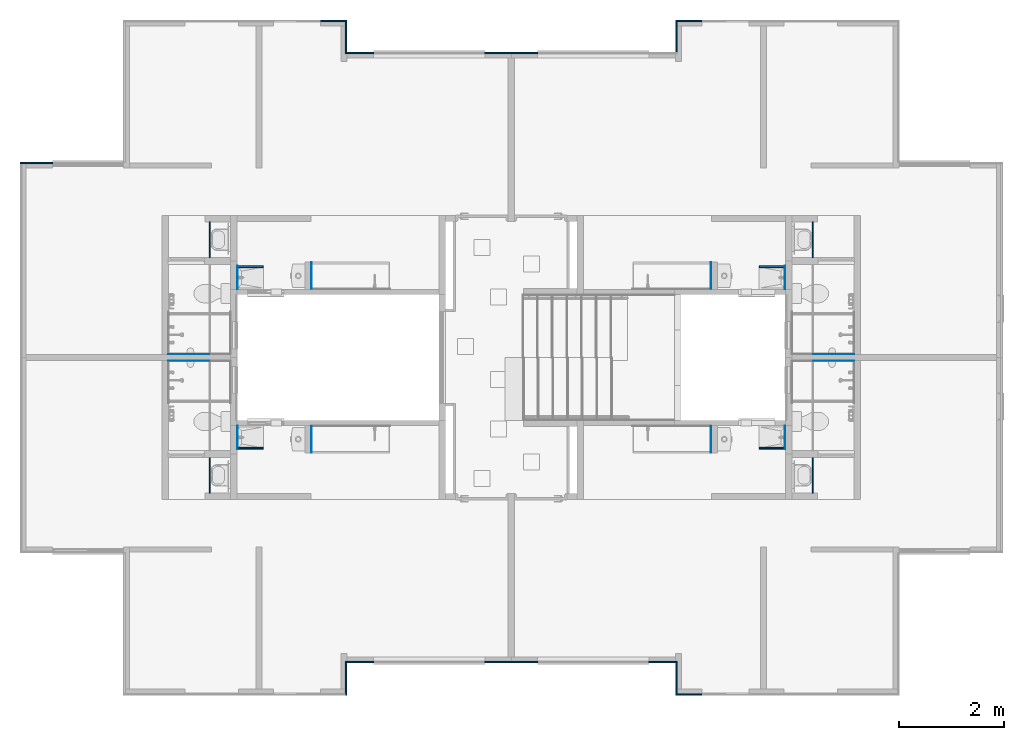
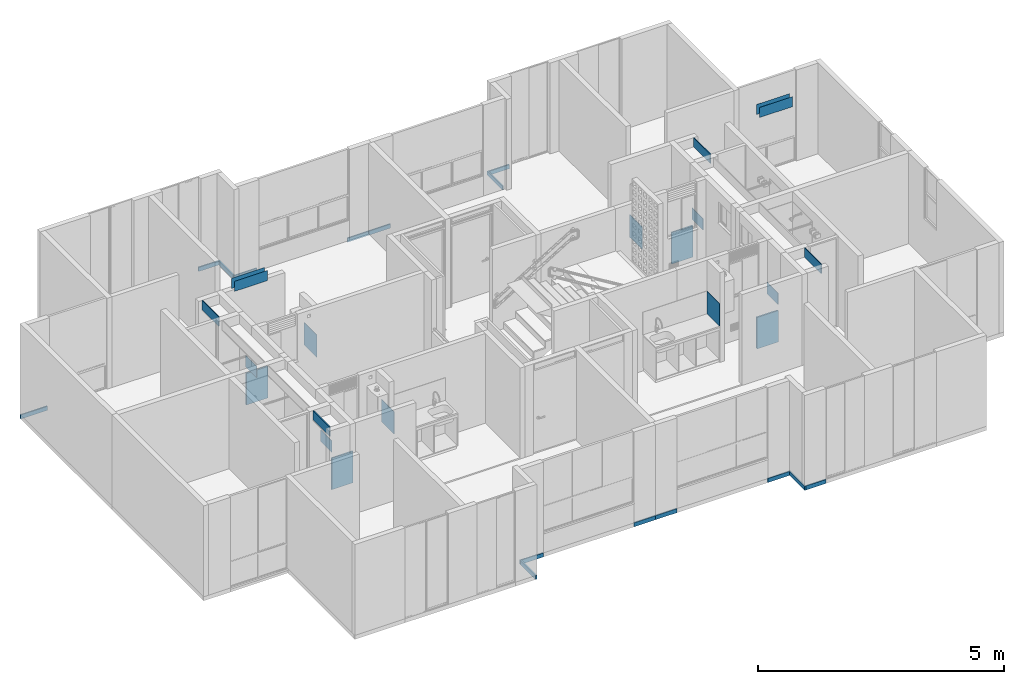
# One storey, part 27 of 48: 35 walls.
"""IFC4 building model written with IfcOpenShell, lengths in metres."""

from ifc_helpers import new_model, entity, si_unit, converted_unit, derived_unit, direction, frame, origin, place, context, subcontext, project, spatial, indexed_curve, outline, extrude, material, constituent, constituent_set, type_object, element, save


model = new_model("IFC4")

# Units and contexts
model_context = context("Model", 3, precision=1e-05, world=origin(), true_north=direction((6.123031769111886e-17, 1.0)))
body_context = subcontext(model_context, "Body", "Model", "MODEL_VIEW")
ifc_project = project(units=[si_unit("LENGTHUNIT", "METRE"), si_unit("AREAUNIT", "SQUARE_METRE"), si_unit("VOLUMEUNIT", "CUBIC_METRE"), converted_unit("PLANEANGLEUNIT", "DEGREE", entity("IfcRatioMeasure", 0.017453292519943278), si_unit("PLANEANGLEUNIT", "RADIAN"), dimensions=[0, 0, 0, 0, 0, 0, 0]), si_unit("MASSUNIT", "GRAM", prefix="KILO"), derived_unit("MASSDENSITYUNIT", [(si_unit("MASSUNIT", "GRAM", prefix="KILO"), 1), (si_unit("LENGTHUNIT", "METRE"), -3)]), derived_unit("IONCONCENTRATIONUNIT", [(si_unit("MASSUNIT", "GRAM", prefix="KILO"), 1), (si_unit("LENGTHUNIT", "METRE"), -3)]), derived_unit("MOMENTOFINERTIAUNIT", [(si_unit("LENGTHUNIT", "METRE"), 4)]), si_unit("TIMEUNIT", "SECOND"), si_unit("FREQUENCYUNIT", "HERTZ"), si_unit("THERMODYNAMICTEMPERATUREUNIT", "DEGREE_CELSIUS"), derived_unit("THERMALTRANSMITTANCEUNIT", [(si_unit("MASSUNIT", "GRAM", prefix="KILO"), 1), (si_unit("THERMODYNAMICTEMPERATUREUNIT", "KELVIN"), -1), (si_unit("TIMEUNIT", "SECOND"), -3)]), derived_unit("THERMALCONDUCTANCEUNIT", [(si_unit("MASSUNIT", "GRAM", prefix="KILO"), 1), (si_unit("THERMODYNAMICTEMPERATUREUNIT", "KELVIN"), -1), (si_unit("TIMEUNIT", "SECOND"), -3), (si_unit("LENGTHUNIT", "METRE"), 1)]), derived_unit("VOLUMETRICFLOWRATEUNIT", [(si_unit("LENGTHUNIT", "METRE"), 3), (si_unit("TIMEUNIT", "SECOND"), -1)]), derived_unit("MASSFLOWRATEUNIT", [(si_unit("MASSUNIT", "GRAM", prefix="KILO"), 1), (si_unit("TIMEUNIT", "SECOND"), -1)]), derived_unit("ROTATIONALFREQUENCYUNIT", [(si_unit("TIMEUNIT", "SECOND"), -1)]), si_unit("ELECTRICCURRENTUNIT", "AMPERE"), si_unit("ELECTRICVOLTAGEUNIT", "VOLT"), si_unit("POWERUNIT", "WATT"), si_unit("FORCEUNIT", "NEWTON", prefix="KILO"), si_unit("ILLUMINANCEUNIT", "LUX"), si_unit("LUMINOUSFLUXUNIT", "LUMEN"), si_unit("LUMINOUSINTENSITYUNIT", "CANDELA"), derived_unit("USERDEFINED", [(si_unit("MASSUNIT", "GRAM", prefix="KILO"), -1), (si_unit("LENGTHUNIT", "METRE"), -2), (si_unit("TIMEUNIT", "SECOND"), 3), (si_unit("LUMINOUSFLUXUNIT", "LUMEN"), 1)]), derived_unit("USERDEFINED", [(si_unit("MASSUNIT", "GRAM", prefix="KILO"), 1), (si_unit("TIMEUNIT", "SECOND"), -3), (si_unit("LENGTHUNIT", "METRE"), 3), (si_unit("ELECTRICCURRENTUNIT", "AMPERE"), -2)]), derived_unit("SOUNDPOWERUNIT", [(si_unit("MASSUNIT", "GRAM", prefix="KILO"), 1), (si_unit("TIMEUNIT", "SECOND"), -3), (si_unit("LENGTHUNIT", "METRE"), 2)]), derived_unit("SOUNDPRESSUREUNIT", [(si_unit("MASSUNIT", "GRAM", prefix="KILO"), 1), (si_unit("LENGTHUNIT", "METRE"), -1), (si_unit("TIMEUNIT", "SECOND"), -2)]), derived_unit("LINEARVELOCITYUNIT", [(si_unit("LENGTHUNIT", "METRE"), 1), (si_unit("TIMEUNIT", "SECOND"), -1)]), si_unit("PRESSUREUNIT", "PASCAL"), derived_unit("USERDEFINED", [(si_unit("MASSUNIT", "GRAM", prefix="KILO"), 1), (si_unit("LENGTHUNIT", "METRE"), -2), (si_unit("TIMEUNIT", "SECOND"), -2)]), derived_unit("LINEARFORCEUNIT", [(si_unit("MASSUNIT", "GRAM", prefix="KILO"), 1), (si_unit("TIMEUNIT", "SECOND"), -2)]), derived_unit("PLANARFORCEUNIT", [(si_unit("MASSUNIT", "GRAM", prefix="KILO"), 1), (si_unit("LENGTHUNIT", "METRE"), -1), (si_unit("TIMEUNIT", "SECOND"), -2)]), derived_unit("SPECIFICHEATCAPACITYUNIT", [(si_unit("THERMODYNAMICTEMPERATUREUNIT", "KELVIN"), -1), (si_unit("LENGTHUNIT", "METRE"), 2), (si_unit("TIMEUNIT", "SECOND"), -2)]), derived_unit("HEATINGVALUEUNIT", [(si_unit("LENGTHUNIT", "METRE"), 2), (si_unit("TIMEUNIT", "SECOND"), -2)]), derived_unit("VAPORPERMEABILITYUNIT", [(si_unit("LENGTHUNIT", "METRE"), -1), (si_unit("TIMEUNIT", "SECOND"), 1)]), derived_unit("DYNAMICVISCOSITYUNIT", [(si_unit("MASSUNIT", "GRAM", prefix="KILO"), 1), (si_unit("TIMEUNIT", "SECOND"), -1), (si_unit("LENGTHUNIT", "METRE"), -1)]), derived_unit("THERMALEXPANSIONCOEFFICIENTUNIT", [(si_unit("THERMODYNAMICTEMPERATUREUNIT", "KELVIN"), -1)]), derived_unit("MODULUSOFELASTICITYUNIT", [(si_unit("MASSUNIT", "GRAM", prefix="KILO"), 1), (si_unit("LENGTHUNIT", "METRE"), -1), (si_unit("TIMEUNIT", "SECOND"), -2)]), derived_unit("ISOTHERMALMOISTURECAPACITYUNIT", [(si_unit("LENGTHUNIT", "METRE"), 3), (si_unit("MASSUNIT", "GRAM", prefix="KILO"), -1)]), derived_unit("MOISTUREDIFFUSIVITYUNIT", [(si_unit("TIMEUNIT", "SECOND"), -1), (si_unit("LENGTHUNIT", "METRE"), 2)])], contexts=[model_context])

# Site, building, storey
site_placement = place(None, origin())
site = spatial("IfcSite", under=ifc_project, at=site_placement, Name="Default", CompositionType="ELEMENT")
building_placement = place(site_placement, origin())
building = spatial("IfcBuilding", under=site, at=building_placement, CompositionType="ELEMENT")
storey_placement = place(building_placement, frame((0.0, 0.0, 9.40000000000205)))
storey = spatial("IfcBuildingStorey", under=building, at=storey_placement, Name="Nivel 5", CompositionType="ELEMENT", Elevation=9.40000000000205)

# Walls
ifc_material_1 = material(Name="Plasterboard", Category="Materials")
wall_type_1 = type_object("IfcWallType", Name="Basic Wall:C1070 - 0.02m - Plafón - Drywall", PredefinedType="STANDARD")
wall_1_placement = place(storey_placement, frame((3.5624999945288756, -4.515000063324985, 2.019999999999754), z_axis=(0.0, 0.0, 1.0), x_axis=(0.0, 1.0, 0.0)))
element("IfcWall", 1, at=wall_1_placement, inside=storey, type_object=wall_type_1, material=ifc_material_1, Name="Basic Wall:C1070 - 0.02m - Plafón - Drywall", ObjectType="Basic Wall:C1070 - 0.02m - Plafón - Drywall", PredefinedType="NOTDEFINED", context=body_context, shape_type="SweptSolid", body=[
    extrude(outline(indexed_curve([(0.6800000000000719, 0.009999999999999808), (8.086221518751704e-17, 0.009999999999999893), (-8.086221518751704e-17, -0.009999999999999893), (0.6800000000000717, -0.009999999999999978), (0.6800000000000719, 0.009999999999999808)], self_intersect=False)), origin(), (0.0, 0.0, 1.0), 0.23000000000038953),
])
wall_2_placement = place(storey_placement, frame((3.5624999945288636, -8.334999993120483, 2.019999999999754), z_axis=(0.0, 0.0, 1.0), x_axis=(0.0, -1.0, 0.0)))
element("IfcWall", 2, at=wall_2_placement, inside=storey, type_object=wall_type_1, material=ifc_material_1, Name="Basic Wall:C1070 - 0.02m - Plafón - Drywall", ObjectType="Basic Wall:C1070 - 0.02m - Plafón - Drywall", PredefinedType="NOTDEFINED", context=body_context, shape_type="SweptSolid", body=[
    extrude(outline(indexed_curve([(0.6800000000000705, 0.009999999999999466), (-1.4500026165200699e-16, 0.009999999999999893), (1.4500026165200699e-16, -0.009999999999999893), (0.6800000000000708, -0.01000000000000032), (0.6800000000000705, 0.009999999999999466)], self_intersect=False)), origin(), (0.0, 0.0, 1.0), 0.23000000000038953),
])
wall_3_placement = place(storey_placement, frame((15.082500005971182, -4.515000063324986, 2.019999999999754), z_axis=(0.0, 0.0, 1.0), x_axis=(0.0, 1.0, 0.0)))
element("IfcWall", 3, at=wall_3_placement, inside=storey, type_object=wall_type_1, material=ifc_material_1, Name="Basic Wall:C1070 - 0.02m - Plafón - Drywall", ObjectType="Basic Wall:C1070 - 0.02m - Plafón - Drywall", PredefinedType="NOTDEFINED", context=body_context, shape_type="SweptSolid", body=[
    extrude(outline(indexed_curve([(0.6800000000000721, 0.01000000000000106), (-8.086221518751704e-17, 0.009999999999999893), (8.086221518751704e-17, -0.009999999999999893), (0.6800000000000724, -0.009999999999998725), (0.6800000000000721, 0.01000000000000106)], self_intersect=False)), origin(), (0.0, 0.0, 1.0), 0.23000000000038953),
])
wall_4_placement = place(storey_placement, frame((15.082500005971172, -8.334999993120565, 2.019999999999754), z_axis=(0.0, 0.0, 1.0), x_axis=(0.0, -1.0, 0.0)))
element("IfcWall", 4, at=wall_4_placement, inside=storey, type_object=wall_type_1, material=ifc_material_1, Name="Basic Wall:C1070 - 0.02m - Plafón - Drywall", ObjectType="Basic Wall:C1070 - 0.02m - Plafón - Drywall", PredefinedType="NOTDEFINED", context=body_context, shape_type="SweptSolid", body=[
    extrude(outline(indexed_curve([(0.6800000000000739, 0.009999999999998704), (1.74650790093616e-17, 0.009999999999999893), (-1.74650790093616e-17, -0.009999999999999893), (0.6800000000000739, -0.010000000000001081), (0.6800000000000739, 0.009999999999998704)], self_intersect=False)), origin(), (0.0, 0.0, 1.0), 0.23000000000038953),
])
ifc_material_2 = material(Name="Ceramica Salpicadero 0.28m x 0.45m", Category="Materials")
wall_type_2 = type_object("IfcWallType", Name="Basic Wall:C2010 - 0.28 x 0.45 - Salpicadero - Cerámica", PredefinedType="STANDARD")
wall_5_placement = place(storey_placement, frame((4.092499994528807, -4.67500002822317, 0.9299999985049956), z_axis=(0.0, 0.0, 1.0), x_axis=(0.0, -1.0, 0.0)))
element("IfcWall", 5, at=wall_5_placement, inside=storey, type_object=wall_type_2, material=ifc_material_2, Name="Basic Wall:C2010 - 0.28 x 0.45 - Salpicadero - Cerámica", ObjectType="Basic Wall:C2010 - 0.28 x 0.45 - Salpicadero - Cerámica", PredefinedType="NOTDEFINED", context=body_context, shape_type="SweptSolid", body=[
    extrude(outline(indexed_curve([(0.44949999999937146, 0.004999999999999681), (-8.738326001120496e-17, 0.004999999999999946), (8.738326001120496e-17, -0.004999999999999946), (0.4494999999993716, -0.005000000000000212), (0.44949999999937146, 0.004999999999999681)], self_intersect=False)), origin(), (0.0, 0.0, 1.0), 0.28000000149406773),
])
wall_6_placement = place(storey_placement, frame((4.092499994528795, -8.175000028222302, 0.9299999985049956), z_axis=(0.0, 0.0, 1.0), x_axis=(0.0, 1.0, 0.0)))
element("IfcWall", 6, at=wall_6_placement, inside=storey, type_object=wall_type_2, material=ifc_material_2, Name="Basic Wall:C2010 - 0.28 x 0.45 - Salpicadero - Cerámica", ObjectType="Basic Wall:C2010 - 0.28 x 0.45 - Salpicadero - Cerámica", PredefinedType="NOTDEFINED", context=body_context, shape_type="SweptSolid", body=[
    extrude(outline(indexed_curve([(0.4494999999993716, 0.004999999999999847), (5.531423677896e-17, 0.004999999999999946), (-5.531423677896e-17, -0.004999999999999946), (0.44949999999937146, -0.005000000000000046), (0.4494999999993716, 0.004999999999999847)], self_intersect=False)), origin(), (0.0, 0.0, 1.0), 0.28000000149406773),
])
wall_7_placement = place(storey_placement, frame((14.55250000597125, -4.67500002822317, 0.9299999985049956), z_axis=(0.0, 0.0, 1.0), x_axis=(0.0, -1.0, 0.0)))
element("IfcWall", 7, at=wall_7_placement, inside=storey, type_object=wall_type_2, material=ifc_material_2, Name="Basic Wall:C2010 - 0.28 x 0.45 - Salpicadero - Cerámica", ObjectType="Basic Wall:C2010 - 0.28 x 0.45 - Salpicadero - Cerámica", PredefinedType="NOTDEFINED", context=body_context, shape_type="SweptSolid", body=[
    extrude(outline(indexed_curve([(0.4494999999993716, 0.005000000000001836), (8.738326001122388e-17, 0.005000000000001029), (-8.738326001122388e-17, -0.005000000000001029), (0.44949999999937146, -0.005000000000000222), (0.4494999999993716, 0.005000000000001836)], self_intersect=False)), origin(), (0.0, 0.0, 1.0), 0.28000000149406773),
])
wall_8_placement = place(storey_placement, frame((14.55250000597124, -8.175000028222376, 0.9299999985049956), z_axis=(0.0, 0.0, 1.0), x_axis=(0.0, 1.0, 0.0)))
element("IfcWall", 8, at=wall_8_placement, inside=storey, type_object=wall_type_2, material=ifc_material_2, Name="Basic Wall:C2010 - 0.28 x 0.45 - Salpicadero - Cerámica", ObjectType="Basic Wall:C2010 - 0.28 x 0.45 - Salpicadero - Cerámica", PredefinedType="NOTDEFINED", context=body_context, shape_type="SweptSolid", body=[
    extrude(outline(indexed_curve([(0.4494999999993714, 0.005000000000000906), (-1.1908182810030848e-16, 0.005000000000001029), (1.1908182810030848e-16, -0.005000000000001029), (0.4494999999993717, -0.005000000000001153), (0.4494999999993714, 0.005000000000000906)], self_intersect=False)), origin(), (0.0, 0.0, 1.0), 0.28000000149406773),
])
wall_9_placement = place(storey_placement, frame((5.507499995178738, -4.605000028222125, 0.9299999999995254), z_axis=(0.0, 0.0, 1.0), x_axis=(0.0, -1.0, 0.0)))
element("IfcWall", 9, at=wall_9_placement, inside=storey, type_object=wall_type_2, material=ifc_material_2, Name="Basic Wall:C2010 - 0.28 x 0.45 - Salpicadero - Cerámica", ObjectType="Basic Wall:C2010 - 0.28 x 0.45 - Salpicadero - Cerámica", PredefinedType="NOTDEFINED", context=body_context, shape_type="SweptSolid", body=[
    extrude(outline(indexed_curve([(0.5100000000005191, 0.005000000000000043), (-2.217940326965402e-17, 0.004999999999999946), (2.217940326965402e-17, -0.004999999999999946), (0.5100000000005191, -0.00499999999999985), (0.5100000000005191, 0.005000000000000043)], self_intersect=False)), origin(), (0.0, 0.0, 1.0), 0.5599999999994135),
])
wall_10_placement = place(storey_placement, frame((5.507499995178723, -8.245000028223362, 0.9299999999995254), z_axis=(0.0, 0.0, 1.0), x_axis=(0.0, 1.0, 0.0)))
element("IfcWall", 10, at=wall_10_placement, inside=storey, type_object=wall_type_2, material=ifc_material_2, Name="Basic Wall:C2010 - 0.28 x 0.45 - Salpicadero - Cerámica", ObjectType="Basic Wall:C2010 - 0.28 x 0.45 - Salpicadero - Cerámica", PredefinedType="NOTDEFINED", context=body_context, shape_type="SweptSolid", body=[
    extrude(outline(indexed_curve([(0.5100000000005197, 0.0049999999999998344), (-9.519164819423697e-18, 0.004999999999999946), (9.519164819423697e-18, -0.004999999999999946), (0.5100000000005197, -0.005000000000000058), (0.5100000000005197, 0.0049999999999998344)], self_intersect=False)), origin(), (0.0, 0.0, 1.0), 0.5599999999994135),
])
wall_11_placement = place(storey_placement, frame((13.13750000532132, -4.605000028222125, 0.9299999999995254), z_axis=(0.0, 0.0, 1.0), x_axis=(0.0, -1.0, 0.0)))
element("IfcWall", 11, at=wall_11_placement, inside=storey, type_object=wall_type_2, material=ifc_material_2, Name="Basic Wall:C2010 - 0.28 x 0.45 - Salpicadero - Cerámica", ObjectType="Basic Wall:C2010 - 0.28 x 0.45 - Salpicadero - Cerámica", PredefinedType="NOTDEFINED", context=body_context, shape_type="SweptSolid", body=[
    extrude(outline(indexed_curve([(0.5100000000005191, 0.0050000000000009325), (2.2179403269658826e-17, 0.005000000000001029), (-2.2179403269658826e-17, -0.005000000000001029), (0.5100000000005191, -0.005000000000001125), (0.5100000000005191, 0.0050000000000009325)], self_intersect=False)), origin(), (0.0, 0.0, 1.0), 0.5599999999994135),
])
wall_12_placement = place(storey_placement, frame((13.137500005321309, -8.245000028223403, 0.9299999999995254), z_axis=(0.0, 0.0, 1.0), x_axis=(0.0, 1.0, 0.0)))
element("IfcWall", 12, at=wall_12_placement, inside=storey, type_object=wall_type_2, material=ifc_material_2, Name="Basic Wall:C2010 - 0.28 x 0.45 - Salpicadero - Cerámica", ObjectType="Basic Wall:C2010 - 0.28 x 0.45 - Salpicadero - Cerámica", PredefinedType="NOTDEFINED", context=body_context, shape_type="SweptSolid", body=[
    extrude(outline(indexed_curve([(0.5100000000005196, 0.00499999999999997), (-5.3311001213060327e-17, 0.005000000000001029), (5.3311001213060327e-17, -0.005000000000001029), (0.5100000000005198, -0.005000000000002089), (0.5100000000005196, 0.00499999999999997)], self_intersect=False)), origin(), (0.0, 0.0, 1.0), 0.5599999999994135),
])
ifc_material_3 = material(Name="Estuco y pintura", Category="Materials")
ifc_constituent_1 = constituent(ifc_material_3, Name="Estuco y pintura", Category="Materials")
ifc_material_4 = material(Name="0 muro divisorio", Category="Materials")
ifc_constituent_2 = constituent(ifc_material_4, Name="0 muro divisorio", Category="Materials")
ifc_constituent_3 = constituent(ifc_material_3, Name="Estuco y pintura (2)", Category="Materials")
ifc_constituent_set = constituent_set(constituents=[ifc_constituent_1, ifc_constituent_2, ifc_constituent_3], Name="Basic Wall:B2010 - 0.03m - Muro interior en estuco+pintura+ concreto+ estuco+ pintura")
wall_type_3 = type_object("IfcWallType", Name="Basic Wall:B2010 - 0.03m - Muro interior en estuco+pintura+ concreto+ estuco+ pintura", PredefinedType="STANDARD", material=ifc_constituent_set)
wall_13_placement = place(storey_placement, frame((4.087499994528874, -4.6920000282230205, 0.0)))
element("IfcWall", 13, at=wall_13_placement, inside=storey, type_object=wall_type_3, material=ifc_constituent_set, Name="Basic Wall:B2010 - 0.03m - Muro interior en estuco+pintura+ concreto+ estuco+ pintura", ObjectType="Basic Wall:B2010 - 0.03m - Muro interior en estuco+pintura+ concreto+ estuco+ pintura", PredefinedType="NOTDEFINED", context=body_context, shape_type="SweptSolid", body=[
    extrude(outline(indexed_curve([(-0.0009999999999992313, -0.25000023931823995), (0.0010000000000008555, -0.25000023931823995), (0.0009999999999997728, 0.2500002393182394), (-0.001000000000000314, 0.2500002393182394), (-0.0009999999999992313, -0.25000023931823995)], self_intersect=False)), frame((0.25000023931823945, -0.016000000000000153, 0.0), z_axis=(0.0, 0.0, 1.0), x_axis=(0.0, 1.0, 0.0)), (0.0, 0.0, 1.0), 0.7799999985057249),
    extrude(outline(indexed_curve([(-0.0009999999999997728, -0.25000023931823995), (0.001000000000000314, -0.25000023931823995), (0.0009999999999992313, 0.2500002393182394), (-0.0010000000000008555, 0.2500002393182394), (-0.0009999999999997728, -0.25000023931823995)], self_intersect=False)), frame((0.25000023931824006, 0.015999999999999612, 0.0), z_axis=(0.0, 0.0, 1.0), x_axis=(0.0, -1.0, 0.0)), (0.0, 0.0, 1.0), 0.7799999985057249),
    extrude(outline(indexed_curve([(-0.25000023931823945, -0.01500000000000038), (0.2500002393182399, -0.01500000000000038), (0.25000023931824, 0.014999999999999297), (-0.2500002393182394, 0.014999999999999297), (-0.25000023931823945, -0.01500000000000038)], self_intersect=False)), frame((0.25000023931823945, 0.0, 0.0)), (0.0, 0.0, 1.0), 0.7799999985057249),
])
wall_14_placement = place(storey_placement, frame((4.087499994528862, -8.158000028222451, 0.0)))
element("IfcWall", 14, at=wall_14_placement, inside=storey, type_object=wall_type_3, material=ifc_constituent_set, Name="Basic Wall:B2010 - 0.03m - Muro interior en estuco+pintura+ concreto+ estuco+ pintura", ObjectType="Basic Wall:B2010 - 0.03m - Muro interior en estuco+pintura+ concreto+ estuco+ pintura", PredefinedType="NOTDEFINED", context=body_context, shape_type="SweptSolid", body=[
    extrude(outline(indexed_curve([(-0.0010000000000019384, -0.25000023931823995), (0.0009999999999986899, -0.25000023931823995), (0.0010000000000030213, 0.2500002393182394), (-0.000999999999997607, 0.2500002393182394), (-0.0010000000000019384, -0.25000023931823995)], self_intersect=False)), frame((0.2500002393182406, 0.016000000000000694, 0.0), z_axis=(0.0, 0.0, 1.0), x_axis=(0.0, -1.0, 0.0)), (0.0, 0.0, 1.0), 0.7799999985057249),
    extrude(outline(indexed_curve([(-0.0010000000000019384, -0.25000023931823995), (0.000999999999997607, -0.25000023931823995), (0.0010000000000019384, 0.2500002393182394), (-0.000999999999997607, 0.2500002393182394), (-0.0010000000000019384, -0.25000023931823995)], self_intersect=False)), frame((0.25000023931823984, -0.015999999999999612, 0.0), z_axis=(0.0, 0.0, 1.0), x_axis=(0.0, 1.0, 0.0)), (0.0, 0.0, 1.0), 0.7799999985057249),
    extrude(outline(indexed_curve([(-0.25000023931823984, -0.014999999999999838), (0.25000023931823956, -0.014999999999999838), (0.25000023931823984, 0.014999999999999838), (-0.25000023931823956, 0.014999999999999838), (-0.25000023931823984, -0.014999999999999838)], self_intersect=False)), frame((0.25000023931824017, 0.0, 0.0)), (0.0, 0.0, 1.0), 0.7799999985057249),
])
wall_15_placement = place(storey_placement, frame((14.557500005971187, -4.6920000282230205, 0.0), z_axis=(0.0, 0.0, 1.0), x_axis=(-1.0, 0.0, 0.0)))
element("IfcWall", 15, at=wall_15_placement, inside=storey, type_object=wall_type_3, material=ifc_constituent_set, Name="Basic Wall:B2010 - 0.03m - Muro interior en estuco+pintura+ concreto+ estuco+ pintura", ObjectType="Basic Wall:B2010 - 0.03m - Muro interior en estuco+pintura+ concreto+ estuco+ pintura", PredefinedType="NOTDEFINED", context=body_context, shape_type="SweptSolid", body=[
    extrude(outline(indexed_curve([(-0.0010000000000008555, -0.25000023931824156), (0.0009999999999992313, -0.25000023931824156), (0.001000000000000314, 0.2500002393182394), (-0.0009999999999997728, 0.2500002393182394), (-0.0010000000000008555, -0.25000023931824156)], self_intersect=False)), frame((0.25000023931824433, 0.015999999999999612, 0.0), z_axis=(0.0, 0.0, 1.0), x_axis=(0.0, -1.0, 0.0)), (0.0, 0.0, 1.0), 0.7799999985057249),
    extrude(outline(indexed_curve([(-0.001000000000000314, -0.25000023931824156), (0.0009999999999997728, -0.25000023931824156), (0.0010000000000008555, 0.25000023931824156), (-0.0009999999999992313, 0.25000023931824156), (-0.001000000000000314, -0.25000023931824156)], self_intersect=False)), frame((0.2500002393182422, -0.016000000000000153, 0.0), z_axis=(0.0, 0.0, 1.0), x_axis=(0.0, 1.0, 0.0)), (0.0, 0.0, 1.0), 0.7799999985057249),
    extrude(outline(indexed_curve([(-0.25000023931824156, -0.01500000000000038), (0.2500002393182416, -0.01500000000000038), (0.25000023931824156, 0.014999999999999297), (-0.25000023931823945, 0.014999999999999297), (-0.25000023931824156, -0.01500000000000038)], self_intersect=False)), frame((0.25000023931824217, 0.0, 0.0)), (0.0, 0.0, 1.0), 0.7799999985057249),
])
wall_16_placement = place(storey_placement, frame((14.557500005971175, -8.158000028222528, 0.0), z_axis=(0.0, 0.0, 1.0), x_axis=(-1.0, 0.0, 0.0)))
element("IfcWall", 16, at=wall_16_placement, inside=storey, type_object=wall_type_3, material=ifc_constituent_set, Name="Basic Wall:B2010 - 0.03m - Muro interior en estuco+pintura+ concreto+ estuco+ pintura", ObjectType="Basic Wall:B2010 - 0.03m - Muro interior en estuco+pintura+ concreto+ estuco+ pintura", PredefinedType="NOTDEFINED", context=body_context, shape_type="SweptSolid", body=[
    extrude(outline(indexed_curve([(-0.0010000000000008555, -0.2500002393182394), (0.0009999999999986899, -0.2500002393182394), (0.0010000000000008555, 0.2500002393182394), (-0.0009999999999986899, 0.2500002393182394), (-0.0010000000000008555, -0.2500002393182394)], self_intersect=False)), frame((0.25000023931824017, -0.015999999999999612, 0.0), z_axis=(0.0, 0.0, 1.0), x_axis=(0.0, 1.0, 0.0)), (0.0, 0.0, 1.0), 0.7799999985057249),
    extrude(outline(indexed_curve([(-0.0010000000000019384, -0.2500002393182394), (0.0009999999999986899, -0.2500002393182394), (0.0010000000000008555, 0.2500002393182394), (-0.0009999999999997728, 0.2500002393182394), (-0.0010000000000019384, -0.2500002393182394)], self_intersect=False)), frame((0.25000023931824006, 0.015999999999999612, 0.0), z_axis=(0.0, 0.0, 1.0), x_axis=(0.0, -1.0, 0.0)), (0.0, 0.0, 1.0), 0.7799999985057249),
    extrude(outline(indexed_curve([(-0.25000023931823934, -0.014999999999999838), (0.25000023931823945, -0.014999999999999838), (0.25000023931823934, 0.014999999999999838), (-0.25000023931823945, 0.014999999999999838), (-0.25000023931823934, -0.014999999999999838)], self_intersect=False)), frame((0.2500002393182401, 0.0, 0.0)), (0.0, 0.0, 1.0), 0.7799999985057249),
])
ifc_material_5 = material(Name="LADRILLO CLARO", Category="Materials")
wall_type_4 = type_object("IfcWallType", Name="Basic Wall:B2010 - 0.03m - ME enchape  no estructural - Ladrillo", PredefinedType="STANDARD")
wall_17_placement = place(storey_placement, frame((9.322500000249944, -0.6100000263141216, -0.1000000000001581), z_axis=(0.0, 0.0, 1.0), x_axis=(-1.0, 0.0, 0.0)))
element("IfcWall", 17, at=wall_17_placement, inside=storey, type_object=wall_type_4, material=ifc_material_5, Name="Basic Wall:B2010 - 0.03m - ME enchape  no estructural - Ladrillo", ObjectType="Basic Wall:B2010 - 0.03m - ME enchape  no estructural - Ladrillo", PredefinedType="NOTDEFINED", context=body_context, shape_type="SweptSolid", body=[
    extrude(outline(indexed_curve([(0.5049999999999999, 0.015000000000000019), (-5.3566291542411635e-17, 0.014999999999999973), (5.3566291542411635e-17, -0.014999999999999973), (0.505, -0.014999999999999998), (0.5049999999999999, 0.015000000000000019)], self_intersect=False)), origin(), (0.0, 0.0, 1.0), 0.09999999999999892),
])
wall_18_placement = place(storey_placement, frame((6.167499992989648, -0.5950000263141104, -0.1000000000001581), z_axis=(0.0, 0.0, 1.0), x_axis=(0.0, 1.0, 0.0)))
element("IfcWall", 18, at=wall_18_placement, inside=storey, type_object=wall_type_4, material=ifc_material_5, Name="Basic Wall:B2010 - 0.03m - ME enchape  no estructural - Ladrillo", ObjectType="Basic Wall:B2010 - 0.03m - ME enchape  no estructural - Ladrillo", PredefinedType="NOTDEFINED", context=body_context, shape_type="SweptSolid", body=[
    extrude(outline(indexed_curve([(0.6150000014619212, 0.014999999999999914), (-1.83697019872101e-18, 0.014999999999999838), (1.83697019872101e-18, -0.014999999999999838), (0.6150000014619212, -0.014999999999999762), (0.6150000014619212, 0.014999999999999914)], self_intersect=False)), origin(), (0.0, 0.0, 1.0), 0.09999999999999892),
])
wall_19_placement = place(storey_placement, frame((6.1524999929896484, 0.004999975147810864, -0.10000000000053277), z_axis=(0.0, 0.0, 1.0), x_axis=(-1.0, 0.0, 0.0)))
element("IfcWall", 19, at=wall_19_placement, inside=storey, type_object=wall_type_4, material=ifc_material_5, Name="Basic Wall:B2010 - 0.03m - ME enchape  no estructural - Ladrillo", ObjectType="Basic Wall:B2010 - 0.03m - ME enchape  no estructural - Ladrillo", PredefinedType="NOTDEFINED", context=body_context, shape_type="SweptSolid", body=[
    extrude(outline(indexed_curve([(0.46999999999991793, 0.015), (-1.4243869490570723e-16, 0.015), (1.4243869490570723e-16, -0.015), (0.4699999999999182, -0.015), (0.46999999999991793, 0.015)], self_intersect=False)), origin(), (0.0, 0.0, 1.0), 0.09999999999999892),
])
wall_20_placement = place(storey_placement, frame((-0.05749999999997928, -2.710000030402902, -0.10000000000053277)))
element("IfcWall", 20, at=wall_20_placement, inside=storey, type_object=wall_type_4, material=ifc_material_5, Name="Basic Wall:B2010 - 0.03m - ME enchape  no estructural - Ladrillo", ObjectType="Basic Wall:B2010 - 0.03m - ME enchape  no estructural - Ladrillo", PredefinedType="NOTDEFINED", context=body_context, shape_type="SweptSolid", body=[
    extrude(outline(indexed_curve([(0.6249999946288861, 0.014999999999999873), (2.443197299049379e-18, 0.014999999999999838), (-2.443197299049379e-18, -0.014999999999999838), (0.6249999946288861, -0.014999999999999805), (0.6249999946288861, 0.014999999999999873)], self_intersect=False)), origin(), (0.0, 0.0, 1.0), 0.09999999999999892),
])
wall_21_placement = place(storey_placement, frame((9.322500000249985, -12.240000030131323, -0.1000000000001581), z_axis=(0.0, 0.0, 1.0), x_axis=(-1.0, 0.0, 0.0)))
element("IfcWall", 21, at=wall_21_placement, inside=storey, type_object=wall_type_4, material=ifc_material_5, Name="Basic Wall:B2010 - 0.03m - ME enchape  no estructural - Ladrillo", ObjectType="Basic Wall:B2010 - 0.03m - ME enchape  no estructural - Ladrillo", PredefinedType="NOTDEFINED", context=body_context, shape_type="SweptSolid", body=[
    extrude(outline(indexed_curve([(0.505, 0.015000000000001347), (5.1729321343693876e-17, 0.015000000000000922), (-5.1729321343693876e-17, -0.015000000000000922), (0.5049999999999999, -0.015000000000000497), (0.505, 0.015000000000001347)], self_intersect=False)), origin(), (0.0, 0.0, 1.0), 0.09999999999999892),
])
wall_22_placement = place(storey_placement, frame((6.167499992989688, -12.255000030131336, -0.1000000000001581), z_axis=(0.0, 0.0, 1.0), x_axis=(0.0, -1.0, 0.0)))
element("IfcWall", 22, at=wall_22_placement, inside=storey, type_object=wall_type_4, material=ifc_material_5, Name="Basic Wall:B2010 - 0.03m - ME enchape  no estructural - Ladrillo", ObjectType="Basic Wall:B2010 - 0.03m - ME enchape  no estructural - Ladrillo", PredefinedType="NOTDEFINED", context=body_context, shape_type="SweptSolid", body=[
    extrude(outline(indexed_curve([(0.6150000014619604, 0.014999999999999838), (0.0, 0.014999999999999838), (0.0, -0.014999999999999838), (0.6150000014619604, -0.014999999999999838), (0.6150000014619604, 0.014999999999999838)], self_intersect=False)), origin(), (0.0, 0.0, 1.0), 0.09999999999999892),
])
wall_23_placement = place(storey_placement, frame((9.322500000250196, -0.6100000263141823, -0.1000000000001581)))
element("IfcWall", 23, at=wall_23_placement, inside=storey, type_object=wall_type_4, material=ifc_material_5, Name="Basic Wall:B2010 - 0.03m - ME enchape  no estructural - Ladrillo", ObjectType="Basic Wall:B2010 - 0.03m - ME enchape  no estructural - Ladrillo", PredefinedType="NOTDEFINED", context=body_context, shape_type="SweptSolid", body=[
    extrude(outline(indexed_curve([(0.5049999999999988, 0.014999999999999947), (-4.7460613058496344e-17, 0.014999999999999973), (4.7460613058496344e-17, -0.014999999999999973), (0.504999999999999, -0.015000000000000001), (0.5049999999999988, 0.014999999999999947)], self_intersect=False)), origin(), (0.0, 0.0, 1.0), 0.09999999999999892),
])
wall_24_placement = place(storey_placement, frame((12.47750000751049, -0.5950000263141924, -0.1000000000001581), z_axis=(0.0, 0.0, 1.0), x_axis=(0.0, 1.0, 0.0)))
element("IfcWall", 24, at=wall_24_placement, inside=storey, type_object=wall_type_4, material=ifc_material_5, Name="Basic Wall:B2010 - 0.03m - ME enchape  no estructural - Ladrillo", ObjectType="Basic Wall:B2010 - 0.03m - ME enchape  no estructural - Ladrillo", PredefinedType="NOTDEFINED", context=body_context, shape_type="SweptSolid", body=[
    extrude(outline(indexed_curve([(0.6150000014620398, 0.015000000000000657), (-3.151073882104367e-17, 0.015000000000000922), (3.151073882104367e-17, -0.015000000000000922), (0.6150000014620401, -0.015000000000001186), (0.6150000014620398, 0.015000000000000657)], self_intersect=False)), origin(), (0.0, 0.0, 1.0), 0.09999999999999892),
])
wall_25_placement = place(storey_placement, frame((12.492500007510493, 0.0049999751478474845, -0.10000000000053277)))
element("IfcWall", 25, at=wall_25_placement, inside=storey, type_object=wall_type_4, material=ifc_material_5, Name="Basic Wall:B2010 - 0.03m - ME enchape  no estructural - Ladrillo", ObjectType="Basic Wall:B2010 - 0.03m - ME enchape  no estructural - Ladrillo", PredefinedType="NOTDEFINED", context=body_context, shape_type="SweptSolid", body=[
    extrude(outline(indexed_curve([(0.4699999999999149, 0.015), (4.3864338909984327e-17, 0.015), (-4.3864338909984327e-17, -0.015), (0.46999999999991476, -0.015), (0.4699999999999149, 0.015)], self_intersect=False)), origin(), (0.0, 0.0, 1.0), 0.09999999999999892),
])
wall_26_placement = place(storey_placement, frame((9.322500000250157, -12.240000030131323, -0.1000000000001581)))
element("IfcWall", 26, at=wall_26_placement, inside=storey, type_object=wall_type_4, material=ifc_material_5, Name="Basic Wall:B2010 - 0.03m - ME enchape  no estructural - Ladrillo", ObjectType="Basic Wall:B2010 - 0.03m - ME enchape  no estructural - Ladrillo", PredefinedType="NOTDEFINED", context=body_context, shape_type="SweptSolid", body=[
    extrude(outline(indexed_curve([(0.5049999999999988, 0.015000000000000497), (-5.1729321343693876e-17, 0.015000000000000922), (5.1729321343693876e-17, -0.015000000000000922), (0.504999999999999, -0.015000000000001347), (0.5049999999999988, 0.015000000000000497)], self_intersect=False)), origin(), (0.0, 0.0, 1.0), 0.09999999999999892),
])
wall_27_placement = place(storey_placement, frame((12.477500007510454, -12.255000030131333, -0.1000000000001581), z_axis=(0.0, 0.0, 1.0), x_axis=(0.0, -1.0, 0.0)))
element("IfcWall", 27, at=wall_27_placement, inside=storey, type_object=wall_type_4, material=ifc_material_5, Name="Basic Wall:B2010 - 0.03m - ME enchape  no estructural - Ladrillo", ObjectType="Basic Wall:B2010 - 0.03m - ME enchape  no estructural - Ladrillo", PredefinedType="NOTDEFINED", context=body_context, shape_type="SweptSolid", body=[
    extrude(outline(indexed_curve([(0.6150000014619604, 0.015000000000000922), (0.0, 0.015000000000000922), (0.0, -0.015000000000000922), (0.6150000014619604, -0.015000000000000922), (0.6150000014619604, 0.015000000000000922)], self_intersect=False)), origin(), (0.0, 0.0, 1.0), 0.09999999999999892),
])
wall_28_placement = place(storey_placement, frame((12.492500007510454, -12.855000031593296, -0.10000000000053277)))
element("IfcWall", 28, at=wall_28_placement, inside=storey, type_object=wall_type_4, material=ifc_material_5, Name="Basic Wall:B2010 - 0.03m - ME enchape  no estructural - Ladrillo", ObjectType="Basic Wall:B2010 - 0.03m - ME enchape  no estructural - Ladrillo", PredefinedType="NOTDEFINED", context=body_context, shape_type="SweptSolid", body=[
    extrude(outline(indexed_curve([(0.4699999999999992, 0.015000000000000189), (-4.570130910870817e-17, 0.015000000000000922), (4.570130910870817e-17, -0.015000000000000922), (0.46999999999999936, -0.015000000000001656), (0.4699999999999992, 0.015000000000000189)], self_intersect=False)), origin(), (0.0, 0.0, 1.0), 0.09999999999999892),
])
wall_29_placement = place(storey_placement, frame((6.6924999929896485, -0.6100000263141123, -0.1000000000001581), z_axis=(0.0, 0.0, 1.0), x_axis=(-1.0, 0.0, 0.0)))
element("IfcWall", 29, at=wall_29_placement, inside=storey, type_object=wall_type_4, material=ifc_material_5, Name="Basic Wall:B2010 - 0.03m - ME enchape  no estructural - Ladrillo", ObjectType="Basic Wall:B2010 - 0.03m - ME enchape  no estructural - Ladrillo", PredefinedType="NOTDEFINED", context=body_context, shape_type="SweptSolid", body=[
    extrude(outline(indexed_curve([(0.5399999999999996, 0.014999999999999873), (-5.3566291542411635e-17, 0.014999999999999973), (5.356629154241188e-17, -0.015000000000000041), (0.5399999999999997, -0.015000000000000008), (0.5399999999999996, 0.014999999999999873)], self_intersect=False)), origin(), (0.0, 0.0, 1.0), 0.09999999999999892),
])
wall_30_placement = place(storey_placement, frame((6.6924999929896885, -12.240000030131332, -0.1000000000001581), z_axis=(0.0, 0.0, 1.0), x_axis=(-1.0, 0.0, 0.0)))
element("IfcWall", 30, at=wall_30_placement, inside=storey, type_object=wall_type_4, material=ifc_material_5, Name="Basic Wall:B2010 - 0.03m - ME enchape  no estructural - Ladrillo", ObjectType="Basic Wall:B2010 - 0.03m - ME enchape  no estructural - Ladrillo", PredefinedType="NOTDEFINED", context=body_context, shape_type="SweptSolid", body=[
    extrude(outline(indexed_curve([(0.5399999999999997, 0.015000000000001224), (5.1729321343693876e-17, 0.015000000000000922), (-5.1729321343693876e-17, -0.015000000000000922), (0.5399999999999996, -0.015000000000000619), (0.5399999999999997, 0.015000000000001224)], self_intersect=False)), origin(), (0.0, 0.0, 1.0), 0.09999999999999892),
])
wall_31_placement = place(storey_placement, frame((11.952500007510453, -12.240000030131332, -0.1000000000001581)))
element("IfcWall", 31, at=wall_31_placement, inside=storey, type_object=wall_type_4, material=ifc_material_5, Name="Basic Wall:B2010 - 0.03m - ME enchape  no estructural - Ladrillo", ObjectType="Basic Wall:B2010 - 0.03m - ME enchape  no estructural - Ladrillo", PredefinedType="NOTDEFINED", context=body_context, shape_type="SweptSolid", body=[
    extrude(outline(indexed_curve([(0.5400000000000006, 0.015000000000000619), (-5.1729321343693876e-17, 0.015000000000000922), (5.1729321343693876e-17, -0.015000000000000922), (0.5400000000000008, -0.015000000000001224), (0.5400000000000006, 0.015000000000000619)], self_intersect=False)), origin(), (0.0, 0.0, 1.0), 0.09999999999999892),
])
ifc_material_6 = material(Name="Repello y pintura", Category="Materials")
wall_type_5 = type_object("IfcWallType", Name="Basic Wall:C2010 - 0.002m - MI acabado de muro- Estuco+ pintura", PredefinedType="STANDARD")
wall_32_placement = place(storey_placement, frame((2.7775010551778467, -6.364000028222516, 4.3500000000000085)))
element("IfcWall", 32, at=wall_32_placement, inside=storey, type_object=wall_type_5, material=ifc_material_6, Name="Basic Wall:C2010 - 0.002m - MI acabado de muro- Estuco+ pintura", ObjectType="Basic Wall:C2010 - 0.002m - MI acabado de muro- Estuco+ pintura", PredefinedType="NOTDEFINED", context=body_context, shape_type="SweptSolid", body=[
    extrude(outline(indexed_curve([(0.7749989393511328, 0.0009999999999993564), (-3.654659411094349e-18, 0.0009999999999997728), (3.654659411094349e-18, -0.0009999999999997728), (0.7749989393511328, -0.0010000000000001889), (0.7749989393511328, 0.0009999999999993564)], self_intersect=False)), origin(), (0.0, 0.0, 1.0), 0.2500000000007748),
])
wall_33_placement = place(storey_placement, frame((2.7775010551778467, -6.486000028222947, 4.3500000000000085)))
element("IfcWall", 33, at=wall_33_placement, inside=storey, type_object=wall_type_5, material=ifc_material_6, Name="Basic Wall:C2010 - 0.002m - MI acabado de muro- Estuco+ pintura", ObjectType="Basic Wall:C2010 - 0.002m - MI acabado de muro- Estuco+ pintura", PredefinedType="NOTDEFINED", context=body_context, shape_type="SweptSolid", body=[
    extrude(outline(indexed_curve([(0.7749989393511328, 0.0009999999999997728), (-2.7944996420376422e-18, 0.0009999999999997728), (2.7944996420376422e-18, -0.0009999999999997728), (0.7749989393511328, -0.0009999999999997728), (0.7749989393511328, 0.0009999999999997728)], self_intersect=False)), origin(), (0.0, 0.0, 1.0), 0.2500000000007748),
])
wall_34_placement = place(storey_placement, frame((15.86749894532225, -6.364000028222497, 4.3500000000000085), z_axis=(0.0, 0.0, 1.0), x_axis=(-1.0, 0.0, 0.0)))
element("IfcWall", 34, at=wall_34_placement, inside=storey, type_object=wall_type_5, material=ifc_material_6, Name="Basic Wall:C2010 - 0.002m - MI acabado de muro- Estuco+ pintura", ObjectType="Basic Wall:C2010 - 0.002m - MI acabado de muro- Estuco+ pintura", PredefinedType="NOTDEFINED", context=body_context, shape_type="SweptSolid", body=[
    extrude(outline(indexed_curve([(0.7749989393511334, 0.0009999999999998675), (-2.916964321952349e-18, 0.0009999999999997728), (2.916964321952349e-18, -0.0009999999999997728), (0.7749989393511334, -0.0009999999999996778), (0.7749989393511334, 0.0009999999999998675)], self_intersect=False)), origin(), (0.0, 0.0, 1.0), 0.2500000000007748),
])
wall_35_placement = place(storey_placement, frame((15.867498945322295, -6.486000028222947, 4.3500000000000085), z_axis=(0.0, 0.0, 1.0), x_axis=(-1.0, 0.0, 0.0)))
element("IfcWall", 35, at=wall_35_placement, inside=storey, type_object=wall_type_5, material=ifc_material_6, Name="Basic Wall:C2010 - 0.002m - MI acabado de muro- Estuco+ pintura", ObjectType="Basic Wall:C2010 - 0.002m - MI acabado de muro- Estuco+ pintura", PredefinedType="NOTDEFINED", context=body_context, shape_type="SweptSolid", body=[
    extrude(outline(indexed_curve([(0.7749989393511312, 0.0009999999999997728), (2.7944996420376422e-18, 0.0009999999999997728), (-2.7944996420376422e-18, -0.0009999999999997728), (0.7749989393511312, -0.0009999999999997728), (0.7749989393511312, 0.0009999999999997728)], self_intersect=False)), origin(), (0.0, 0.0, 1.0), 0.2500000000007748),
])

save(model, "model.ifc")
